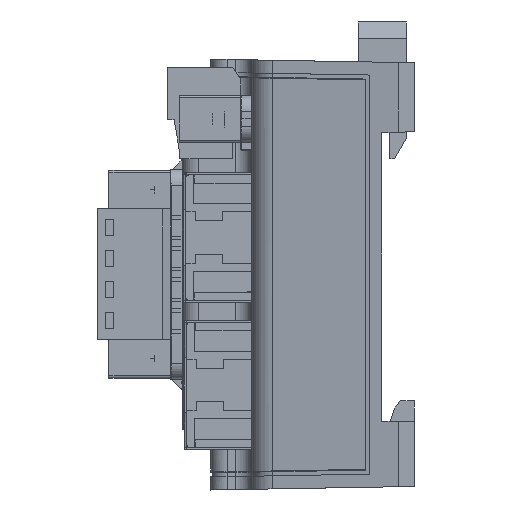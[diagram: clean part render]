
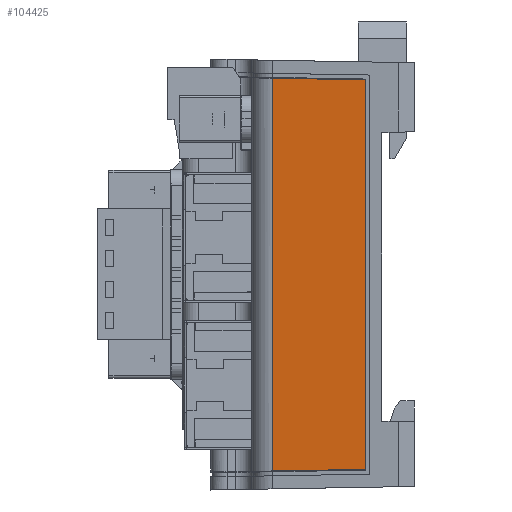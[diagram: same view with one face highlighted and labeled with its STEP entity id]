
A CAD part, left-side view. The second image highlights one B-rep face of the part: STEP entity #104425.
In plain terms, the highlighted planar face has unit normal (-0.991, 0.138, 0).
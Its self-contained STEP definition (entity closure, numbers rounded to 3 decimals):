
#3292 = CARTESIAN_POINT ( 'NONE',  ( 0.556, 4., -47.9 ) ) ;
#4778 = PLANE ( 'NONE',  #83653 ) ;
#5115 = DIRECTION ( 'NONE',  ( 0.138, 0.99, -0.017 ) ) ;
#5411 = EDGE_CURVE ( 'NONE', #60613, #28375, #6978, .T. ) ;
#6602 = DIRECTION ( 'NONE',  ( -0.138, -0.99, -0.017 ) ) ;
#6978 = LINE ( 'NONE', #7875, #70105 ) ;
#7097 = CARTESIAN_POINT ( 'NONE',  ( 2.141, 15.413, 0.099 ) ) ;
#7875 = CARTESIAN_POINT ( 'NONE',  ( 0.556, 4., -47.9 ) ) ;
#8329 = EDGE_CURVE ( 'NONE', #104533, #60613, #60783, .T. ) ;
#11501 = EDGE_CURVE ( 'NONE', #93763, #104533, #93143, .T. ) ;
#13188 = DIRECTION ( 'NONE',  ( 0.138, 0.99, 0. ) ) ;
#15622 = FACE_OUTER_BOUND ( 'NONE', #16001, .T. ) ;
#16001 = EDGE_LOOP ( 'NONE', ( #58316, #31671, #93560, #35266 ) ) ;
#16982 = VECTOR ( 'NONE', #17344, 1000. ) ;
#17344 = DIRECTION ( 'NONE',  ( 0., 0., -1. ) ) ;
#18295 = CARTESIAN_POINT ( 'NONE',  ( 0.556, 4., -48. ) ) ;
#26718 = DIRECTION ( 'NONE',  ( 0., 0., 1. ) ) ;
#28375 = VERTEX_POINT ( 'NONE', #68901 ) ;
#31671 = ORIENTED_EDGE ( 'NONE', *, *, #5411, .F. ) ;
#31738 = CARTESIAN_POINT ( 'NONE',  ( 0.556, 4., -0.1 ) ) ;
#35266 = ORIENTED_EDGE ( 'NONE', *, *, #11501, .F. ) ;
#48643 = VECTOR ( 'NONE', #26718, 1000. ) ;
#58316 = ORIENTED_EDGE ( 'NONE', *, *, #80201, .F. ) ;
#60613 = VERTEX_POINT ( 'NONE', #3292 ) ;
#60783 = LINE ( 'NONE', #18295, #16982 ) ;
#62564 = DIRECTION ( 'NONE',  ( 0.99, -0.138, 0. ) ) ;
#68901 = CARTESIAN_POINT ( 'NONE',  ( 2.141, 15.413, -48.099 ) ) ;
#70105 = VECTOR ( 'NONE', #5115, 1000. ) ;
#71872 = CARTESIAN_POINT ( 'NONE',  ( 2.141, 15.413, 0.099 ) ) ;
#74347 = VECTOR ( 'NONE', #6602, 1000. ) ;
#78444 = CARTESIAN_POINT ( 'NONE',  ( 0., 0., -48. ) ) ;
#80201 = EDGE_CURVE ( 'NONE', #28375, #93763, #91677, .T. ) ;
#83653 = AXIS2_PLACEMENT_3D ( 'NONE', #78444, #62564, #13188 ) ;
#83779 = CARTESIAN_POINT ( 'NONE',  ( 2.141, 15.413, -48. ) ) ;
#91677 = LINE ( 'NONE', #83779, #48643 ) ;
#93143 = LINE ( 'NONE', #7097, #74347 ) ;
#93560 = ORIENTED_EDGE ( 'NONE', *, *, #8329, .F. ) ;
#93763 = VERTEX_POINT ( 'NONE', #71872 ) ;
#104425 = ADVANCED_FACE ( 'NONE', ( #15622 ), #4778, .F. ) ;
#104533 = VERTEX_POINT ( 'NONE', #31738 ) ;
